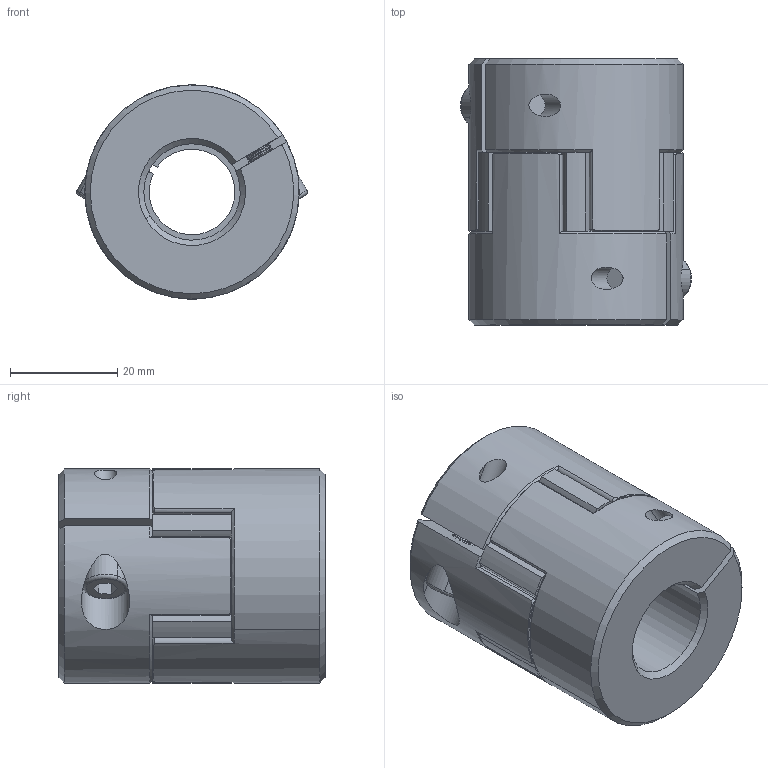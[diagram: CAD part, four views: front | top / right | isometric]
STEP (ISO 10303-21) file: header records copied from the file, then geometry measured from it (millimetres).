
FILE_DESCRIPTION (( 'STEP AP203' ), '1' );
FILE_NAME ('LF-B-D40L50-16-18.STEP', '2021-10-25T03:11:35', ( '' ), ( '' ), 'SwSTEP 2.0', 'SolidWorks 2018', '' );
FILE_SCHEMA (( 'CONFIG_CONTROL_DESIGN' ));
Length unit declared in the file: millimetre
Products named in the file (1): LF-B-D40L50-16-18
Bounding box: 43.11 x 49.7 x 40 mm (x, y, z)
Volume: 49029.8 mm3; surface area: 14578.9 mm2
Topology: 1 solids, 7 shells, 471 faces, 1117 edges, 662 vertices
Faces by surface type: cone 170, cylinder 169, plane 128, torus 4
Entity records: 13972 total; most frequent: CARTESIAN_POINT 2895, DIRECTION 2509, ORIENTED_EDGE 2226, EDGE_CURVE 1113, AXIS2_PLACEMENT_3D 1040, VERTEX_POINT 662, CIRCLE 568, EDGE_LOOP 487
